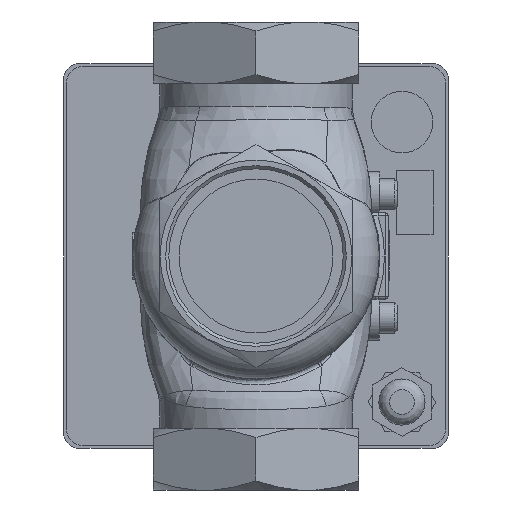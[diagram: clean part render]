
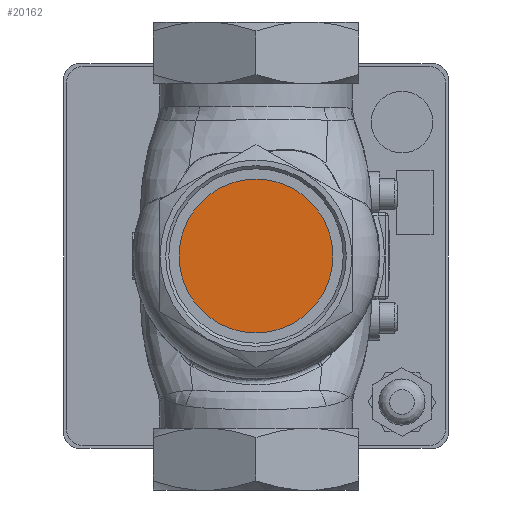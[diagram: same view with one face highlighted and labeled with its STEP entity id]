
A CAD part, front view. The second image highlights one B-rep face of the part: STEP entity #20162.
In plain terms, the highlighted planar face has unit normal (0, -1, 0).
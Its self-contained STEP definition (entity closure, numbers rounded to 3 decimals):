
#1212=PLANE('',#21383);
#2087=FACE_OUTER_BOUND('',#3209,.T.);
#3209=EDGE_LOOP('',(#14541));
#7577=CIRCLE('',#21382,25.);
#8537=VERTEX_POINT('',#33711);
#10751=EDGE_CURVE('',#8537,#8537,#7577,.T.);
#14541=ORIENTED_EDGE('',*,*,#10751,.F.);
#20162=ADVANCED_FACE('',(#2087),#1212,.T.);
#21382=AXIS2_PLACEMENT_3D('',#33713,#23766,#23767);
#21383=AXIS2_PLACEMENT_3D('',#33714,#23768,#23769);
#23766=DIRECTION('center_axis',(0.,1.,0.));
#23767=DIRECTION('ref_axis',(1.,0.,0.));
#23768=DIRECTION('center_axis',(0.,-1.,0.));
#23769=DIRECTION('ref_axis',(0.,0.,-1.));
#33711=CARTESIAN_POINT('',(-25.,-33.,0.));
#33713=CARTESIAN_POINT('Origin',(0.,-33.,0.));
#33714=CARTESIAN_POINT('Origin',(0.,-33.,0.));
